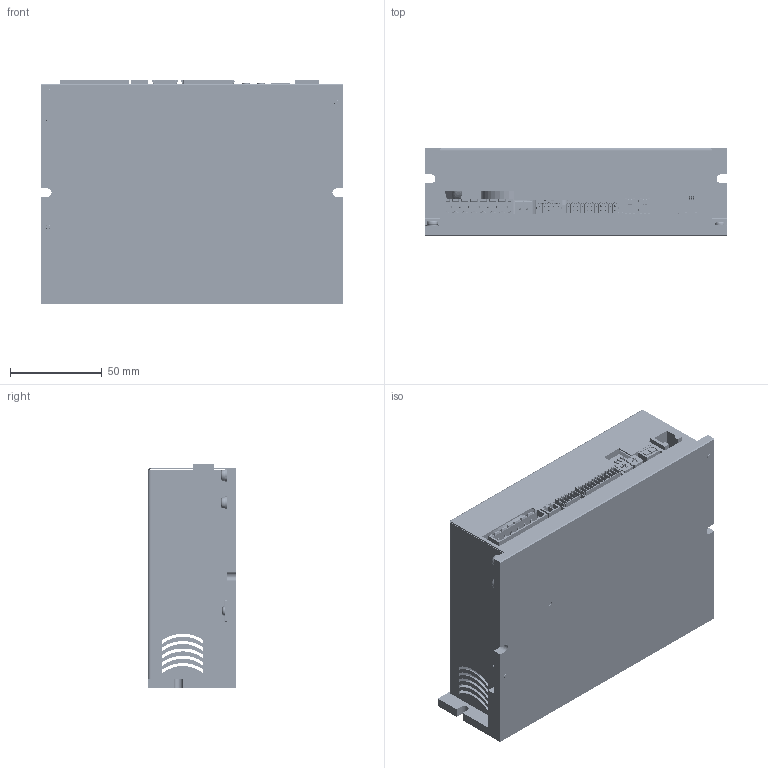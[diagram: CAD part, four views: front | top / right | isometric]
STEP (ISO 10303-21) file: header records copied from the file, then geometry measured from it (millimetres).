
FILE_DESCRIPTION((''),'2;1');
FILE_NAME('SW5A4085_ISD01_ASM','2020-07-28T09:58:35',('Matteo Maccalli'),(''),'CREO PARAMETRIC BY PTC INC, 2019344','CREO PARAMETRIC BY PTC INC, 2019344','');
FILE_SCHEMA(('AUTOMOTIVE_DESIGN { 1 0 10303 214 1 1 1 1 }'));
Products named in the file (80): ESTRUSO_SW5A4085; INSERTO_M2_5X10MM_OK; ESTRUSO_SW5A4085-INSERTI_ASM; AD_00979_SW5A4085; BOARD-2373; SOLID-38945; COMPOUND-59406; 955012641_ASM; CN6_ASM; 1758636; CN1_ASM; RTE0400V04; SW501_ASM; SW500_ASM; MC_1_5-2-G-3_81-P14-THR; PHOENIX_1782352_ASM; CN1L_ASM; BOARD-163326; A6E-4104; DIP100_ASM; IMD03DIP-00_ASM; DIP500_ASM; DMC_0_5-5-G-2_54_THR; 1844756_ASM; CN4_ASM; 877600416; JMP600_ASM; C-5555153-1-C-3D; CN5A_ASM; CN5B_ASM; MC_1_5-6-G-3_81-P14-THR; 1782394_00_ASM; CN2_ASM; BOHRLOCH_1; DMC_0_5-11-G-2_54_THR; 1844811_ASM; CN3_ASM; BOARD-421032; TDS; DISPLAY_ASM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
Assembly tree (128 placements, depth 7):
  SW5A4085_ISD01_ASM
    ESTRUSO_SW5A4085-INSERTI_ASM
      ESTRUSO_SW5A4085
      INSERTO_M2_5X10MM_OK  x3
    AD_00979_SW5A4085
    ISD01-00_FULL_ASM
      PCB_ASM
        BOARD-2373
        CN6_ASM
          955012641_ASM
            SOLID-38945
            COMPOUND-59406
        CN1_ASM
          1758636
        SW501_ASM
          RTE0400V04
        SW500_ASM
          RTE0400V04
        CN1L_ASM
          PHOENIX_1782352_ASM
            MC_1_5-2-G-3_81-P14-THR
        DIP500_ASM
          IMD03DIP-00_ASM
            BOARD-163326
            DIP100_ASM
              A6E-4104
        CN4_ASM
          1844756_ASM
            DMC_0_5-5-G-2_54_THR
        JMP600_ASM
          877600416
        CN5A_ASM
          C-5555153-1-C-3D
        CN5B_ASM
          C-5555153-1-C-3D
        CN2_ASM
          1782394_00_ASM
            MC_1_5-6-G-3_81-P14-THR
        CN3_ASM
          1844811_ASM
            BOHRLOCH_1  x23
            DMC_0_5-11-G-2_54_THR
        VIS500_ASM
          WPW05VIS-01_ASM
            BOARD-421032
            DISPLAY_ASM
              TDS
        CE200_ASM
          CE30X30P10_OK
        CE201_ASM
          CE30X30P10_OK
        IC506_ASM
          USER_LIBRARY-LQFP100
        J500_ASM
          HW-02-12-X-D-750-100  x4
        J501_ASM
          010897061_ASM
            SOLID-749998
            COMPOUND-755939
        J502_ASM
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Bounding box: 165 x 48.3 x 122.1 mm (x, y, z)
Volume: 266264.2 mm3; surface area: 203290.6 mm2
Topology: 77 solids, 85 shells, 10202 faces, 26319 edges, 16578 vertices
Faces by surface type: plane 7760, cylinder 1946, bspline 148, sphere 130, cone 120, torus 56, extrusion 42
Entity records: 328121 total; most frequent: CARTESIAN_POINT 58519, ORIENTED_EDGE 41082, DIRECTION 39265, EDGE_CURVE 20557, PRESENTATION_STYLE_ASSIGNMENT 18958, VECTOR 16129, LINE 16087, STYLED_ITEM 15702
